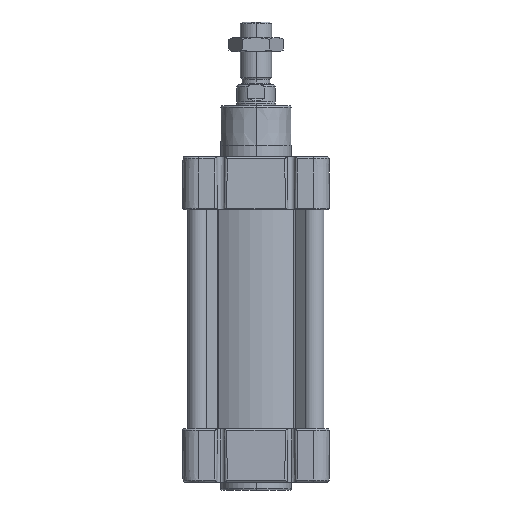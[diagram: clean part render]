
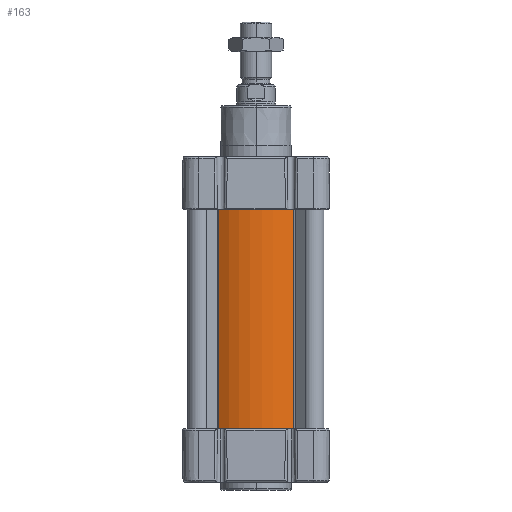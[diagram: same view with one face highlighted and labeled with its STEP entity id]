
A CAD part, left-side view. The second image highlights one B-rep face of the part: STEP entity #163.
In plain terms, the highlighted cylindrical face has radius 42 mm (diameter 84 mm), a partial arc.
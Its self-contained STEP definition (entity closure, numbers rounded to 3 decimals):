
#157 = CARTESIAN_POINT ( 'NONE',  ( -23.655, -34.705, 0. ) ) ;
#163 = ADVANCED_FACE ( 'NONE', ( #87344 ), #34121, .T. ) ;
#1545 = ORIENTED_EDGE ( 'NONE', *, *, #32730, .F. ) ;
#1744 = EDGE_LOOP ( 'NONE', ( #43747, #43442, #1545, #62825 ) ) ;
#3512 = DIRECTION ( 'NONE',  ( 1., 0., 0. ) ) ;
#3909 = VERTEX_POINT ( 'NONE', #9855 ) ;
#5505 = CARTESIAN_POINT ( 'NONE',  ( 23.655, -34.705, 140. ) ) ;
#5980 = VERTEX_POINT ( 'NONE', #157 ) ;
#7718 = EDGE_CURVE ( 'NONE', #5980, #72568, #79598, .T. ) ;
#9855 = CARTESIAN_POINT ( 'NONE',  ( -23.655, -34.705, 140. ) ) ;
#18906 = DIRECTION ( 'NONE',  ( 0., 0., -1. ) ) ;
#24947 = CIRCLE ( 'NONE', #83210, 42. ) ;
#32730 = EDGE_CURVE ( 'NONE', #3909, #80241, #24947, .T. ) ;
#33140 = DIRECTION ( 'NONE',  ( 0., 0., -1. ) ) ;
#33496 = CARTESIAN_POINT ( 'NONE',  ( 0., 0., 0. ) ) ;
#34121 = CYLINDRICAL_SURFACE ( 'NONE', #99335, 42. ) ;
#40851 = CARTESIAN_POINT ( 'NONE',  ( 0., 0., 140. ) ) ;
#43442 = ORIENTED_EDGE ( 'NONE', *, *, #85654, .F. ) ;
#43747 = ORIENTED_EDGE ( 'NONE', *, *, #7718, .T. ) ;
#47478 = CARTESIAN_POINT ( 'NONE',  ( 23.655, -34.705, 0. ) ) ;
#48803 = CARTESIAN_POINT ( 'NONE',  ( 23.655, -34.705, 140. ) ) ;
#52260 = EDGE_CURVE ( 'NONE', #3909, #5980, #82430, .T. ) ;
#57143 = DIRECTION ( 'NONE',  ( 0., 0., 1. ) ) ;
#61222 = LINE ( 'NONE', #48803, #83001 ) ;
#62825 = ORIENTED_EDGE ( 'NONE', *, *, #52260, .T. ) ;
#65928 = CARTESIAN_POINT ( 'NONE',  ( 0., 0., 140. ) ) ;
#72568 = VERTEX_POINT ( 'NONE', #47478 ) ;
#73934 = AXIS2_PLACEMENT_3D ( 'NONE', #33496, #57143, #3512 ) ;
#78229 = DIRECTION ( 'NONE',  ( 0., 0., -1. ) ) ;
#79598 = CIRCLE ( 'NONE', #73934, 42. ) ;
#80241 = VERTEX_POINT ( 'NONE', #5505 ) ;
#82430 = LINE ( 'NONE', #88477, #87254 ) ;
#82840 = DIRECTION ( 'NONE',  ( 1., 0., 0. ) ) ;
#83001 = VECTOR ( 'NONE', #78229, 1000. ) ;
#83210 = AXIS2_PLACEMENT_3D ( 'NONE', #65928, #97403, #82840 ) ;
#85654 = EDGE_CURVE ( 'NONE', #80241, #72568, #61222, .T. ) ;
#87254 = VECTOR ( 'NONE', #18906, 1000. ) ;
#87344 = FACE_OUTER_BOUND ( 'NONE', #1744, .T. ) ;
#88477 = CARTESIAN_POINT ( 'NONE',  ( -23.655, -34.705, 140. ) ) ;
#93680 = DIRECTION ( 'NONE',  ( -1., 0., 0. ) ) ;
#97403 = DIRECTION ( 'NONE',  ( 0., 0., 1. ) ) ;
#99335 = AXIS2_PLACEMENT_3D ( 'NONE', #40851, #33140, #93680 ) ;
